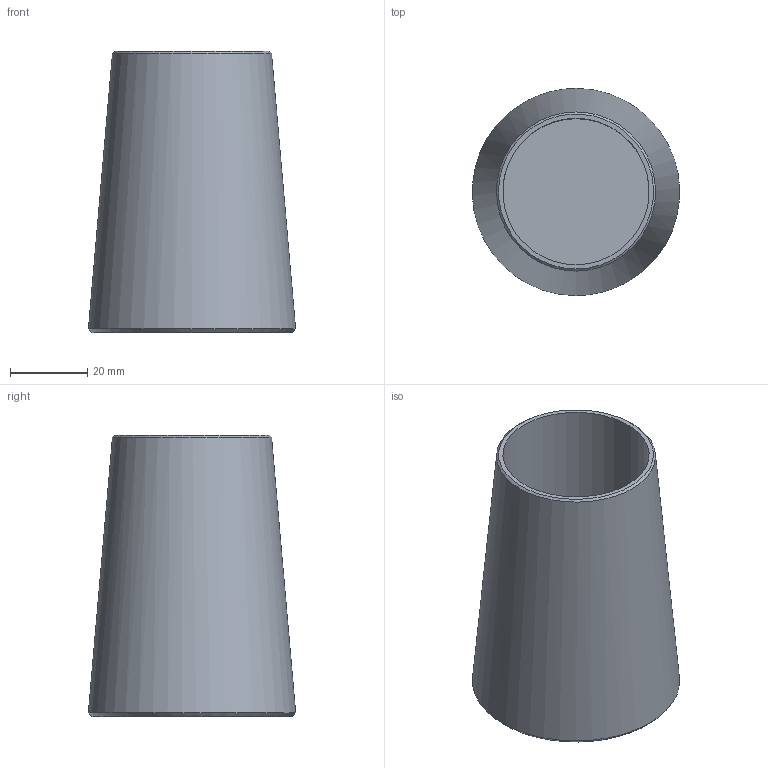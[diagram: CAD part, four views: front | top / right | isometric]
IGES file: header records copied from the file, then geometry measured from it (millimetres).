
Global section: file name: 520-036-KMU; native system: Autodesk Inventor 2016; preprocessor: unknown; author: BAYR; date: 20200618.122713; units: millimetre
Bounding box: 53.79 x 53.83 x 73 mm (x, y, z)
Volume: 68305.2 mm3; surface area: 21013.4 mm2
Topology: 1 solids, 1 shells, 7 faces, 14 edges, 10 vertices
Faces by surface type: bspline 7
